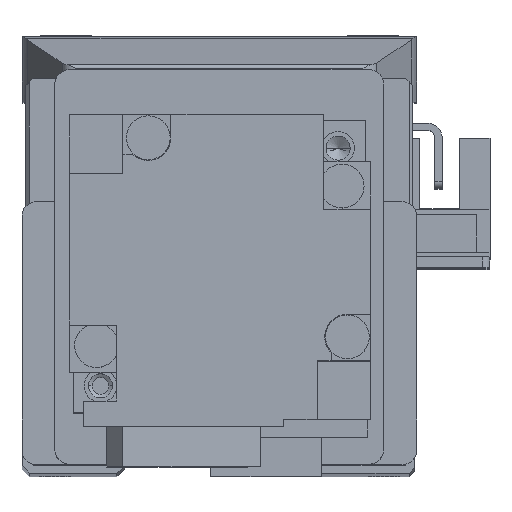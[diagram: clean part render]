
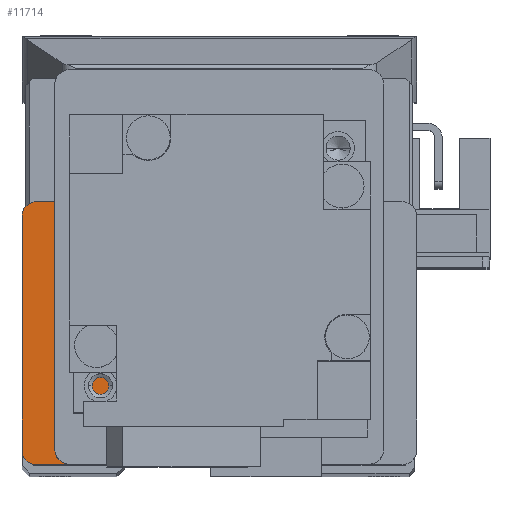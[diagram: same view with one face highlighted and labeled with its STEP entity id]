
A CAD part, top view. The second image highlights one B-rep face of the part: STEP entity #11714.
In plain terms, the highlighted planar face has unit normal (0, 0, 1) as drawn and (0, 0, -1) by its records, which use the part's own axes.
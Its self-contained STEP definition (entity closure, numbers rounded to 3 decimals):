
#667 = VERTEX_POINT ( 'NONE', #15432 ) ;
#747 = CARTESIAN_POINT ( 'NONE',  ( 25., -27., 16.25 ) ) ;
#1260 = CARTESIAN_POINT ( 'NONE',  ( 25., 9., 16.25 ) ) ;
#1622 = CIRCLE ( 'NONE', #4612, 5. ) ;
#2071 = DIRECTION ( 'NONE',  ( -1., 0., 0. ) ) ;
#2345 = VECTOR ( 'NONE', #24188, 1000. ) ;
#2497 = VECTOR ( 'NONE', #16909, 1000. ) ;
#2696 = CARTESIAN_POINT ( 'NONE',  ( 25., 9., 16.25 ) ) ;
#3228 = EDGE_CURVE ( 'NONE', #6671, #6593, #33913, .T. ) ;
#3421 = CARTESIAN_POINT ( 'NONE',  ( 11., -27., 16.25 ) ) ;
#4612 = AXIS2_PLACEMENT_3D ( 'NONE', #9170, #34422, #6741 ) ;
#5124 = EDGE_CURVE ( 'NONE', #18589, #20352, #31579, .T. ) ;
#5370 = CARTESIAN_POINT ( 'NONE',  ( 27., 7., 16.25 ) ) ;
#5452 = CARTESIAN_POINT ( 'NONE',  ( 27., 27., 16.25 ) ) ;
#5652 = ORIENTED_EDGE ( 'NONE', *, *, #30041, .F. ) ;
#6593 = VERTEX_POINT ( 'NONE', #6885 ) ;
#6624 = EDGE_CURVE ( 'NONE', #19169, #8570, #28669, .T. ) ;
#6671 = VERTEX_POINT ( 'NONE', #27501 ) ;
#6741 = DIRECTION ( 'NONE',  ( 1., 0., 0. ) ) ;
#6885 = CARTESIAN_POINT ( 'NONE',  ( 16., -12., 16.25 ) ) ;
#7289 = EDGE_CURVE ( 'NONE', #6671, #667, #32878, .T. ) ;
#7721 = CARTESIAN_POINT ( 'NONE',  ( 11., -17., 16.25 ) ) ;
#7959 = EDGE_LOOP ( 'NONE', ( #19343, #21704, #22747, #32299, #22347, #15612, #32959, #30320, #5652 ) ) ;
#8570 = VERTEX_POINT ( 'NONE', #34130 ) ;
#9170 = CARTESIAN_POINT ( 'NONE',  ( 16., -17., 16.25 ) ) ;
#9245 = DIRECTION ( 'NONE',  ( 0., 0., 1. ) ) ;
#10174 = VECTOR ( 'NONE', #33946, 1000. ) ;
#10469 = FACE_OUTER_BOUND ( 'NONE', #7959, .T. ) ;
#11714 = ADVANCED_FACE ( 'NONE', ( #10469 ), #19073, .F. ) ;
#11813 = EDGE_CURVE ( 'NONE', #17801, #667, #16991, .T. ) ;
#12944 = CARTESIAN_POINT ( 'NONE',  ( 25., 7., 16.25 ) ) ;
#13308 = DIRECTION ( 'NONE',  ( 0., 0., -1. ) ) ;
#13949 = VECTOR ( 'NONE', #22251, 1000. ) ;
#14657 = VECTOR ( 'NONE', #16633, 1000. ) ;
#15432 = CARTESIAN_POINT ( 'NONE',  ( 22.5, 9., 16.25 ) ) ;
#15612 = ORIENTED_EDGE ( 'NONE', *, *, #33605, .F. ) ;
#15672 = CARTESIAN_POINT ( 'NONE',  ( 22.5, -12., 16.25 ) ) ;
#16633 = DIRECTION ( 'NONE',  ( 0., 1., 0. ) ) ;
#16885 = CIRCLE ( 'NONE', #22301, 2. ) ;
#16909 = DIRECTION ( 'NONE',  ( 0., -1., 0. ) ) ;
#16991 = LINE ( 'NONE', #2696, #13949 ) ;
#17801 = VERTEX_POINT ( 'NONE', #1260 ) ;
#18589 = VERTEX_POINT ( 'NONE', #7721 ) ;
#18952 = DIRECTION ( 'NONE',  ( 0., 0., 1. ) ) ;
#19073 = PLANE ( 'NONE',  #22605 ) ;
#19169 = VERTEX_POINT ( 'NONE', #5370 ) ;
#19343 = ORIENTED_EDGE ( 'NONE', *, *, #3228, .F. ) ;
#20352 = VERTEX_POINT ( 'NONE', #3421 ) ;
#20679 = CARTESIAN_POINT ( 'NONE',  ( 25., -25., 16.25 ) ) ;
#21704 = ORIENTED_EDGE ( 'NONE', *, *, #7289, .T. ) ;
#21760 = DIRECTION ( 'NONE',  ( 1., 0., 0. ) ) ;
#22251 = DIRECTION ( 'NONE',  ( -1., 0., 0. ) ) ;
#22301 = AXIS2_PLACEMENT_3D ( 'NONE', #20679, #9245, #23269 ) ;
#22347 = ORIENTED_EDGE ( 'NONE', *, *, #6624, .T. ) ;
#22363 = CARTESIAN_POINT ( 'NONE',  ( 22.5, 27., 16.25 ) ) ;
#22605 = AXIS2_PLACEMENT_3D ( 'NONE', #30231, #18952, #21760 ) ;
#22672 = VECTOR ( 'NONE', #2071, 1000. ) ;
#22747 = ORIENTED_EDGE ( 'NONE', *, *, #11813, .F. ) ;
#23031 = VERTEX_POINT ( 'NONE', #747 ) ;
#23233 = AXIS2_PLACEMENT_3D ( 'NONE', #12944, #13308, #26728 ) ;
#23269 = DIRECTION ( 'NONE',  ( 1., 0., 0. ) ) ;
#24069 = CARTESIAN_POINT ( 'NONE',  ( 11., -27., 16.25 ) ) ;
#24188 = DIRECTION ( 'NONE',  ( 0., -1., 0. ) ) ;
#25430 = LINE ( 'NONE', #33831, #10174 ) ;
#26728 = DIRECTION ( 'NONE',  ( 1., 0., 0. ) ) ;
#27501 = CARTESIAN_POINT ( 'NONE',  ( 22.5, -12., 16.25 ) ) ;
#28421 = EDGE_CURVE ( 'NONE', #20352, #23031, #25430, .T. ) ;
#28669 = LINE ( 'NONE', #5452, #2497 ) ;
#29041 = CIRCLE ( 'NONE', #23233, 2. ) ;
#30041 = EDGE_CURVE ( 'NONE', #6593, #18589, #1622, .T. ) ;
#30231 = CARTESIAN_POINT ( 'NONE',  ( 25., -25., 16.25 ) ) ;
#30320 = ORIENTED_EDGE ( 'NONE', *, *, #5124, .F. ) ;
#31579 = LINE ( 'NONE', #24069, #2345 ) ;
#32299 = ORIENTED_EDGE ( 'NONE', *, *, #32693, .T. ) ;
#32693 = EDGE_CURVE ( 'NONE', #17801, #19169, #29041, .T. ) ;
#32878 = LINE ( 'NONE', #22363, #14657 ) ;
#32959 = ORIENTED_EDGE ( 'NONE', *, *, #28421, .F. ) ;
#33605 = EDGE_CURVE ( 'NONE', #23031, #8570, #16885, .T. ) ;
#33831 = CARTESIAN_POINT ( 'NONE',  ( -25., -27., 16.25 ) ) ;
#33913 = LINE ( 'NONE', #15672, #22672 ) ;
#33946 = DIRECTION ( 'NONE',  ( 1., 0., 0. ) ) ;
#34130 = CARTESIAN_POINT ( 'NONE',  ( 27., -25., 16.25 ) ) ;
#34422 = DIRECTION ( 'NONE',  ( 0., 0., 1. ) ) ;
